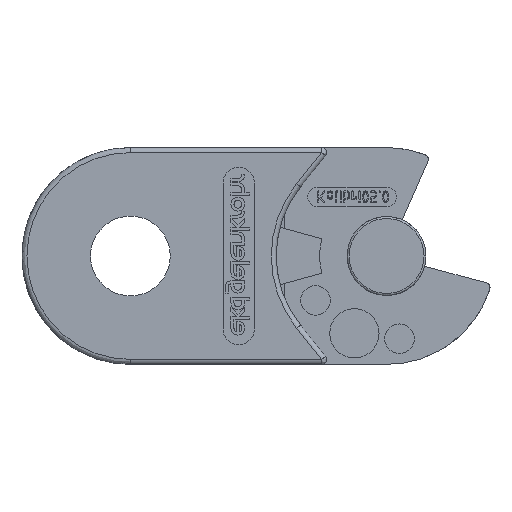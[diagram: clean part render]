
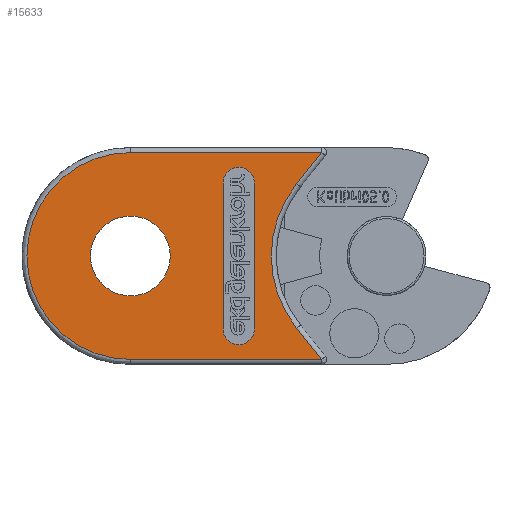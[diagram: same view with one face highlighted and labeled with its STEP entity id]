
A CAD part, left-side view. The second image highlights one B-rep face of the part: STEP entity #15633.
In plain terms, the highlighted free-form (B-spline) face has degree [1, 1] with [2, 2] control points.
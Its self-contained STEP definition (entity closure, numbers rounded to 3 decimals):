
#979=CARTESIAN_POINT('',(-2.8,8.95,11.));
#980=VERTEX_POINT('',#979);
#981=CARTESIAN_POINT('',(-2.8,13.,11.));
#982=DIRECTION('',(-1.0,0.0,0.0));
#983=DIRECTION('',(0.0,1.0,0.0));
#984=AXIS2_PLACEMENT_3D('',#981,#982,#983);
#985=CIRCLE('',#984,4.05);
#986=EDGE_CURVE('',#980,#980,#985,.T.);
#1217=CARTESIAN_POINT('',(-2.8,13.,0.5));
#1218=VERTEX_POINT('',#1217);
#1234=CARTESIAN_POINT('',(-2.8,-6.419,0.5));
#1235=VERTEX_POINT('',#1234);
#1243=CARTESIAN_POINT('',(-2.8,13.,0.5));
#1244=DIRECTION('',(0.0,-1.0,0.0));
#1245=VECTOR('',#1244,19.419);
#1246=LINE('',#1243,#1245);
#1247=EDGE_CURVE('',#1218,#1235,#1246,.T.);
#1278=CARTESIAN_POINT('',(-2.8,-6.419,21.5));
#1279=VERTEX_POINT('',#1278);
#1295=CARTESIAN_POINT('',(-2.8,13.,21.5));
#1296=VERTEX_POINT('',#1295);
#1304=CARTESIAN_POINT('',(-2.8,-6.419,21.5));
#1305=DIRECTION('',(0.0,1.0,0.0));
#1306=VECTOR('',#1305,19.419);
#1307=LINE('',#1304,#1306);
#1308=EDGE_CURVE('',#1279,#1296,#1307,.T.);
#1354=CARTESIAN_POINT('',(-2.8,-3.868,3.686));
#1355=VERTEX_POINT('',#1354);
#1363=CARTESIAN_POINT('',(-2.8,-6.419,0.5));
#1364=DIRECTION('',(0.0,0.625,0.781));
#1365=VECTOR('',#1364,4.082);
#1366=LINE('',#1363,#1365);
#1367=EDGE_CURVE('',#1235,#1355,#1366,.T.);
#1400=CARTESIAN_POINT('',(-2.8,-3.868,18.314));
#1401=VERTEX_POINT('',#1400);
#1422=CARTESIAN_POINT('',(-2.8,-3.868,18.314));
#1423=DIRECTION('',(0.0,-0.625,0.781));
#1424=VECTOR('',#1423,4.082);
#1425=LINE('',#1422,#1424);
#1426=EDGE_CURVE('',#1401,#1279,#1425,.T.);
#13524=CARTESIAN_POINT('',(-2.8,3.6,3.6));
#13525=VERTEX_POINT('',#13524);
#13526=CARTESIAN_POINT('',(-2.8,0.4,3.6));
#13527=VERTEX_POINT('',#13526);
#13528=CARTESIAN_POINT('',(-2.8,2.,3.6));
#13529=DIRECTION('',(-1.0,0.0,0.0));
#13530=DIRECTION('',(0.0,-1.0,0.0));
#13531=AXIS2_PLACEMENT_3D('',#13528,#13529,#13530);
#13532=CIRCLE('',#13531,1.6);
#13533=EDGE_CURVE('',#13525,#13527,#13532,.T.);
#13566=CARTESIAN_POINT('',(-2.8,0.4,18.4));
#13567=VERTEX_POINT('',#13566);
#13568=CARTESIAN_POINT('',(-2.8,0.4,3.6));
#13569=DIRECTION('',(0.0,0.0,1.0));
#13570=VECTOR('',#13569,14.8);
#13571=LINE('',#13568,#13570);
#13572=EDGE_CURVE('',#13527,#13567,#13571,.T.);
#15562=CARTESIAN_POINT('',(-2.8,3.6,18.4));
#15563=VERTEX_POINT('',#15562);
#15564=CARTESIAN_POINT('',(-2.8,2.,18.4));
#15565=DIRECTION('',(-1.0,0.0,0.0));
#15566=DIRECTION('',(0.0,-1.0,0.0));
#15567=AXIS2_PLACEMENT_3D('',#15564,#15565,#15566);
#15568=CIRCLE('',#15567,1.6);
#15569=EDGE_CURVE('',#13567,#15563,#15568,.T.);
#15587=CARTESIAN_POINT('',(-2.8,3.6,18.4));
#15588=DIRECTION('',(0.0,0.0,-1.0));
#15589=VECTOR('',#15588,14.8);
#15590=LINE('',#15587,#15589);
#15591=EDGE_CURVE('',#15563,#13525,#15590,.T.);
#15599=CARTESIAN_POINT('',(-2.8,23.5,21.5));
#15600=CARTESIAN_POINT('',(-2.8,23.5,0.5));
#15601=CARTESIAN_POINT('',(-2.8,-6.419,21.5));
#15602=CARTESIAN_POINT('',(-2.8,-6.419,0.5));
#15603=B_SPLINE_SURFACE_WITH_KNOTS('',1,1,((#15599,#15601),(#15600,#15602)),.UNSPECIFIED.,.F.,.F.,.U.,(2,2),(2,2),(0.0,21.),(0.0,29.919),.UNSPECIFIED.);
#15604=ORIENTED_EDGE('',*,*,#1426,.T.);
#15605=ORIENTED_EDGE('',*,*,#1308,.T.);
#15606=CARTESIAN_POINT('',(-2.8,13.,11.));
#15607=DIRECTION('',(-1.0,0.0,0.0));
#15608=DIRECTION('',(0.0,1.0,0.0));
#15609=AXIS2_PLACEMENT_3D('',#15606,#15607,#15608);
#15610=CIRCLE('',#15609,10.5);
#15611=EDGE_CURVE('',#1296,#1218,#15610,.T.);
#15612=ORIENTED_EDGE('',*,*,#15611,.T.);
#15613=ORIENTED_EDGE('',*,*,#1247,.T.);
#15614=ORIENTED_EDGE('',*,*,#1367,.T.);
#15615=CARTESIAN_POINT('',(-2.8,-13.,11.));
#15616=DIRECTION('',(1.0,0.0,0.0));
#15617=DIRECTION('',(0.0,1.0,0.0));
#15618=AXIS2_PLACEMENT_3D('',#15615,#15616,#15617);
#15619=CIRCLE('',#15618,11.7);
#15620=EDGE_CURVE('',#1355,#1401,#15619,.T.);
#15621=ORIENTED_EDGE('',*,*,#15620,.T.);
#15622=EDGE_LOOP('',(#15604,#15605,#15612,#15613,#15614,#15621));
#15623=FACE_OUTER_BOUND('',#15622,.T.);
#15624=ORIENTED_EDGE('',*,*,#986,.F.);
#15625=EDGE_LOOP('',(#15624));
#15626=FACE_BOUND('',#15625,.T.);
#15627=ORIENTED_EDGE('',*,*,#15569,.F.);
#15628=ORIENTED_EDGE('',*,*,#13572,.F.);
#15629=ORIENTED_EDGE('',*,*,#13533,.F.);
#15630=ORIENTED_EDGE('',*,*,#15591,.F.);
#15631=EDGE_LOOP('',(#15627,#15628,#15629,#15630));
#15632=FACE_BOUND('',#15631,.T.);
#15633=ADVANCED_FACE('',(#15623,#15626,#15632),#15603,.T.);
